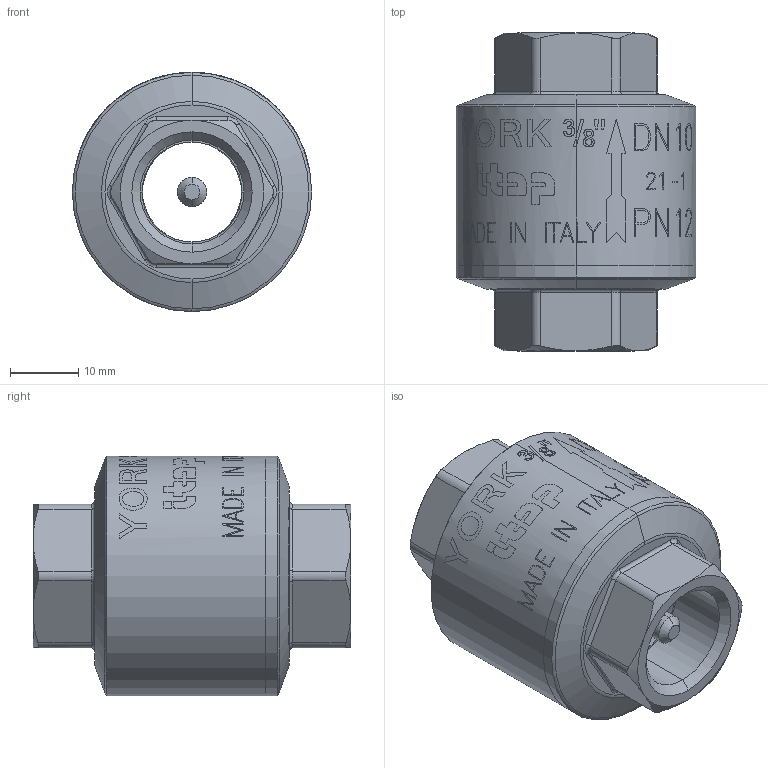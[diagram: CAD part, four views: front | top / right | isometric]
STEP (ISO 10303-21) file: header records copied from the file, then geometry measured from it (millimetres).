
FILE_DESCRIPTION (( 'STEP AP203' ), '1' );
FILE_NAME ('1030038.step', '2020-09-01T13:19:23', ( '' ), ( '' ), 'SwSTEP 2.0', 'SolidWorks 2018', '' );
FILE_SCHEMA (( 'CONFIG_CONTROL_DESIGN' ));
Length unit declared in the file: millimetre
Products named in the file (1): 1030038
Bounding box: 35 x 46.49 x 35 mm (x, y, z)
Surface area: 8777.7 mm2 (no closed solid volume)
Topology: 0 solids, 4 shells, 150 faces, 870 edges, 774 vertices
Faces by surface type: cylinder 85, cone 26, torus 20, plane 19
Entity records: 12010 total; most frequent: CARTESIAN_POINT 5574, ORIENTED_EDGE 1698, DIRECTION 898, EDGE_CURVE 870, VERTEX_POINT 774, B_SPLINE_CURVE_WITH_KNOTS 485, AXIS2_PLACEMENT_3D 362, CIRCLE 211
